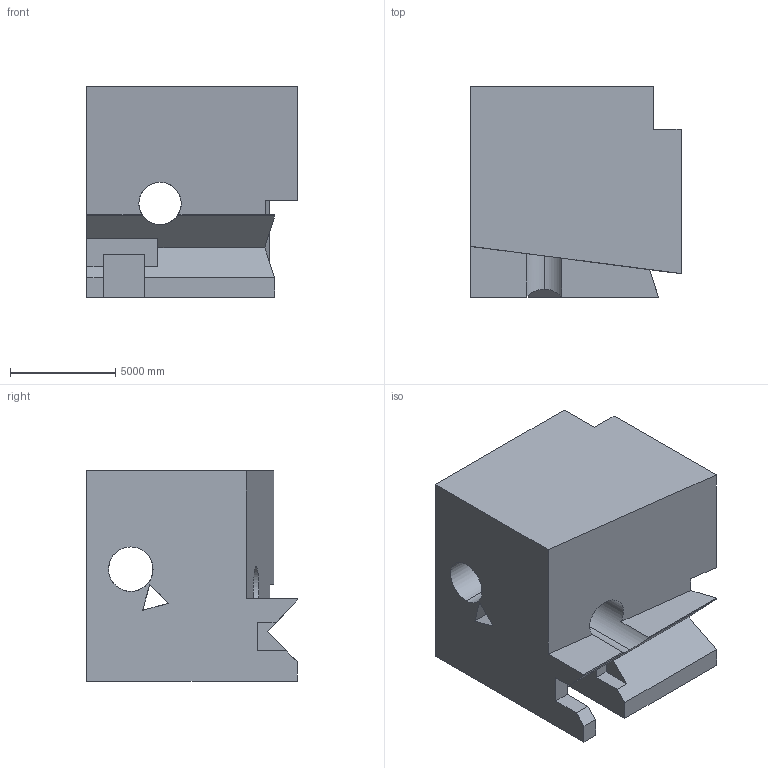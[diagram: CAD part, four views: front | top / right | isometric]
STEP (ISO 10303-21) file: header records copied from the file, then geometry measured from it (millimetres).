
FILE_DESCRIPTION (( 'STEP AP203' ), '1' );
FILE_NAME ('918.STEP', '2022-07-29T14:18:02', ( 'user' ), ( '' ), 'SwSTEP 2.0', 'SolidWorks 2021', '' );
FILE_SCHEMA (( 'CONFIG_CONTROL_DESIGN' ));
Length unit declared in the file: centimetre
Products named in the file (1): 918
Bounding box: 10000 x 10000 x 10000 mm (x, y, z)
Volume: 680070963055.7 mm3; surface area: 712681880.3 mm2
Topology: 1 solids, 1 shells, 41 faces, 132 edges, 88 vertices
Faces by surface type: plane 35, cylinder 6
Entity records: 1955 total; most frequent: CARTESIAN_POINT 725, ORIENTED_EDGE 264, DIRECTION 213, EDGE_CURVE 132, LINE 103, VECTOR 103, VERTEX_POINT 88, AXIS2_PLACEMENT_3D 55
